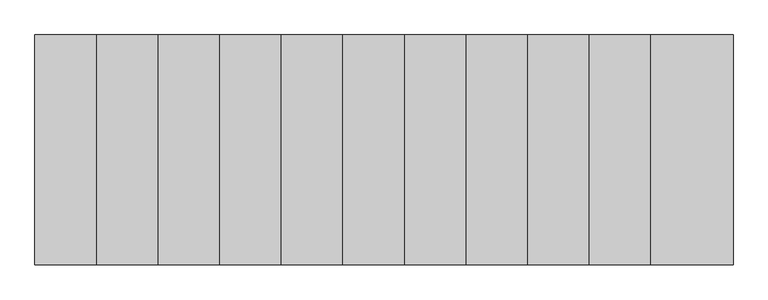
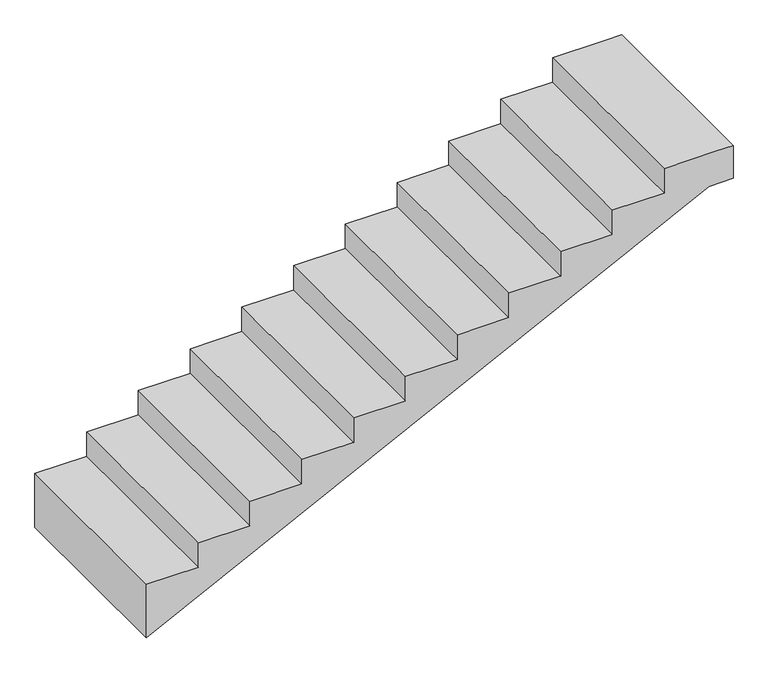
"""IFC4 building model written with IfcOpenShell, lengths in millimetres: beam geometry, SF_марш монолитный с отделкой_3.4 : UP_300х150."""

from ifc_helpers import new_model, si_unit, origin, place, context, project, spatial, faceted_brep, source, transform, mapped, element, save


def beam_5a5c3205(model_context):
    return source(origin(), model_context, "Body", "Brep", [
        faceted_brep([(3557.7708764, -560.0, 1450.0), (300.0, -560.0, -178.8854382), (300.0, 560.0, -178.8854382), (3557.7708764, 560.0, 1450.0), (3700.0, 560.0, 1450.0), (300.0, 560.0, 0.0), (300.0, 560.0, 150.0), (600.0, 560.0, 150.0), (600.0, 560.0, 300.0), (900.0, 560.0, 300.0), (900.0, 560.0, 450.0), (1200.0, 560.0, 450.0), (1200.0, 560.0, 600.0), (1500.0, 560.0, 600.0), (1500.0, 560.0, 750.0), (1800.0, 560.0, 750.0), (1800.0, 560.0, 900.0), (2100.0, 560.0, 900.0), (2100.0, 560.0, 1050.0), (2400.0, 560.0, 1050.0), (2400.0, 560.0, 1200.0), (2700.0, 560.0, 1200.0), (2700.0, 560.0, 1350.0), (3000.0, 560.0, 1350.0), (3000.0, 560.0, 1500.0), (3300.0, 560.0, 1500.0), (3300.0, 560.0, 1650.0), (3600.0, 560.0, 1650.0), (3700.0, 560.0, 1650.0), (3700.0, -560.0, 1650.0), (3600.0, -560.0, 1650.0), (3300.0, -560.0, 1650.0), (3300.0, -560.0, 1500.0), (3000.0, -560.0, 1500.0), (3000.0, -560.0, 1350.0), (2700.0, -560.0, 1350.0), (2700.0, -560.0, 1200.0), (2400.0, -560.0, 1200.0), (2400.0, -560.0, 1050.0), (2100.0, -560.0, 1050.0), (2100.0, -560.0, 900.0), (1800.0, -560.0, 900.0), (1800.0, -560.0, 750.0), (1500.0, -560.0, 750.0), (1500.0, -560.0, 600.0), (1200.0, -560.0, 600.0), (1200.0, -560.0, 450.0), (900.0, -560.0, 450.0), (900.0, -560.0, 300.0), (600.0, -560.0, 300.0), (600.0, -560.0, 150.0), (300.0, -560.0, 150.0), (300.0, -560.0, 0.0), (3700.0, -560.0, 1450.0)], [[[0, 1, 2, 3]], [[4, 3, 2, 5, 6, 7, 8, 9, 10, 11, 12, 13, 14, 15, 16, 17, 18, 19, 20, 21, 22, 23, 24, 25, 26, 27, 28]], [[29, 30, 31, 32, 33, 34, 35, 36, 37, 38, 39, 40, 41, 42, 43, 44, 45, 46, 47, 48, 49, 50, 51, 52, 1, 0, 53]], [[3, 4, 53, 0]], [[7, 6, 51, 50]], [[50, 49, 8, 7]], [[49, 48, 9, 8]], [[48, 47, 10, 9]], [[47, 46, 11, 10]], [[46, 45, 12, 11]], [[45, 44, 13, 12]], [[44, 43, 14, 13]], [[43, 42, 15, 14]], [[42, 41, 16, 15]], [[41, 40, 17, 16]], [[40, 39, 18, 17]], [[39, 38, 19, 18]], [[38, 37, 20, 19]], [[37, 36, 21, 20]], [[36, 35, 22, 21]], [[35, 34, 23, 22]], [[34, 33, 24, 23]], [[33, 32, 25, 24]], [[32, 31, 26, 25]], [[28, 27, 26, 31, 30, 29]], [[53, 4, 28, 29]], [[1, 52, 51, 6, 5, 2]]]),
    ])


if __name__ == "__main__":
    model = new_model("IFC4")
    model_context = context("Model", 3, world=origin())
    ifc_project = project(units=[si_unit("LENGTHUNIT", "METRE", prefix="MILLI")], contexts=[model_context])
    site = spatial("IfcSite", under=ifc_project)
    building = spatial("IfcBuilding", under=site)
    placement = place(None, origin())
    beam_shape = beam_5a5c3205(model_context)
    element("IfcBeam", 1, ObjectType="SF_марш монолитный с отделкой_3.4 : UP_300х150", at=placement, inside=building, context=model_context, shape_type="MappedRepresentation", body=[
        mapped(beam_shape, transform((0.0, 0.0, 0.0), x_axis=(1.0, 0.0, 0.0), y_axis=(0.0, 1.0, 0.0), z_axis=(0.0, 0.0, 1.0))),
    ])
    save(model, "model.ifc")
